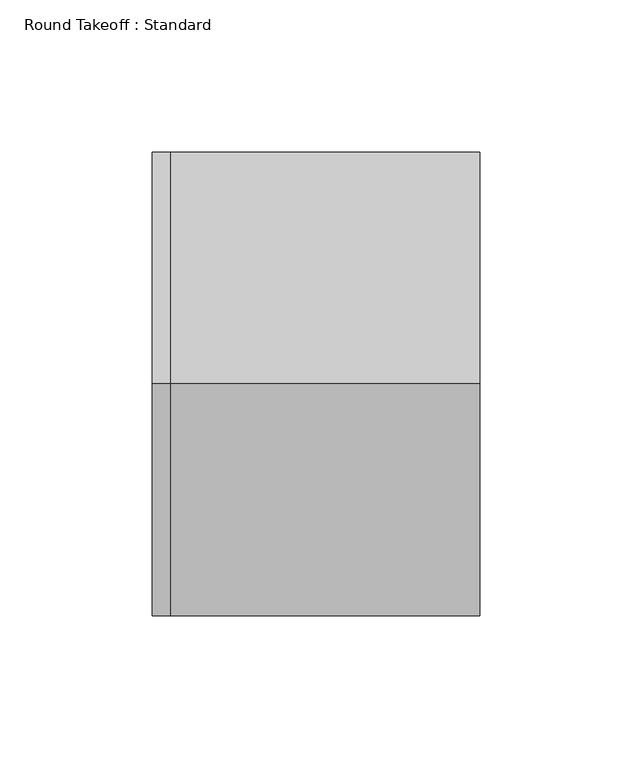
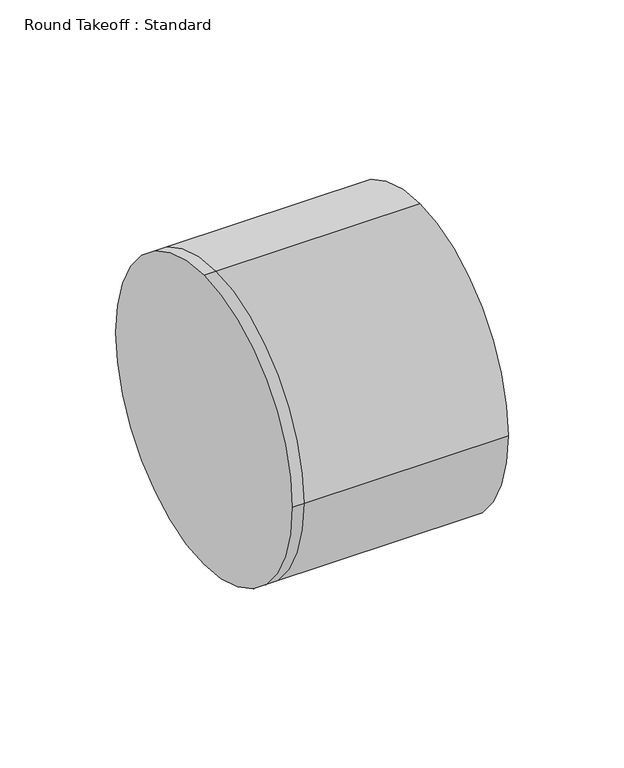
"""IFC4 building model written with IfcOpenShell, lengths in millimetres: duct fitting geometry, Round Takeoff : Standard."""

from ifc_helpers import new_model, si_unit, frame, origin, place, context, project, spatial, circle_curve, source, transform, mapped, element, save
from ifc_brep_helpers import plane_surface, cylinder_surface, advanced_brep


def round_takeoff_standard_bb6ed057(model_context):
    return source(origin(), model_context, "Body", "AdvancedBrep", [
        advanced_brep(
        [(101.6, 0.0, 76.2), (101.6, -76.2, 0.0), (101.6, 0.0, -76.2), (101.6, 76.2, 0.0), (0.0, 0.0, 76.2), (0.0, -76.2, 0.0), (0.0, 0.0, -76.2), (0.0, 76.2, 0.0), (-6.096, 0.0, 76.2), (-6.096, 76.2, 0.0), (-6.096, 0.0, -76.2), (-6.096, -76.2, 0.0)],
        [
            (0, 1, circle_curve(frame((101.6, 0.0, 0.0), z_axis=(1.0, 0.0, 0.0), x_axis=(0.0, -1.0, 0.0)), 76.2)),
            (1, 2, circle_curve(frame((101.6, 0.0, 0.0), z_axis=(1.0, 0.0, 0.0), x_axis=(0.0, -1.0, 0.0)), 76.2)),
            (2, 3, circle_curve(frame((101.6, 0.0, 0.0), z_axis=(1.0, 0.0, 0.0), x_axis=(0.0, -1.0, 0.0)), 76.2)),
            (3, 0, circle_curve(frame((101.6, 0.0, 0.0), z_axis=(1.0, 0.0, 0.0), x_axis=(0.0, -1.0, 0.0)), 76.2)),
            (0, 4),
            (4, 5, circle_curve(frame((0.0, 0.0, 0.0), z_axis=(1.0, 0.0, 0.0), x_axis=(0.0, -1.0, 0.0)), 76.2)),
            (5, 1),
            (5, 6, circle_curve(frame((0.0, 0.0, 0.0), z_axis=(1.0, 0.0, 0.0), x_axis=(0.0, -1.0, 0.0)), 76.2)),
            (6, 2),
            (6, 7, circle_curve(frame((0.0, 0.0, 0.0), z_axis=(1.0, 0.0, 0.0), x_axis=(0.0, -1.0, 0.0)), 76.2)),
            (7, 3),
            (7, 4, circle_curve(frame((0.0, 0.0, 0.0), z_axis=(1.0, 0.0, 0.0), x_axis=(0.0, -1.0, 0.0)), 76.2)),
            (8, 9, circle_curve(frame((-6.096, 0.0, 0.0), z_axis=(-1.0, 0.0, 0.0), x_axis=(0.0, -1.0, 0.0)), 76.2)),
            (9, 10, circle_curve(frame((-6.096, 0.0, 0.0), z_axis=(-1.0, 0.0, 0.0), x_axis=(0.0, -1.0, 0.0)), 76.2)),
            (10, 11, circle_curve(frame((-6.096, 0.0, 0.0), z_axis=(-1.0, 0.0, 0.0), x_axis=(0.0, -1.0, 0.0)), 76.2)),
            (11, 8, circle_curve(frame((-6.096, 0.0, 0.0), z_axis=(-1.0, 0.0, 0.0), x_axis=(0.0, -1.0, 0.0)), 76.2)),
            (11, 5),
            (4, 8),
            (10, 6),
            (9, 7),
        ],
        [
            plane_surface(frame((101.6, 0.0, 0.0), z_axis=(1.0, 0.0, 0.0), x_axis=(0.0, 0.0, 1.0))),
            cylinder_surface(frame((0.0, 0.0, 0.0), z_axis=(-1.0, 0.0, 0.0), x_axis=(0.0, -1.0, 0.0)), 76.2),
            plane_surface(frame((-6.096, 0.0, 0.0), z_axis=(-1.0, 0.0, 0.0), x_axis=(0.0, 0.0, 1.0))),
            cylinder_surface(frame((-6.096, 0.0, 0.0), z_axis=(-1.0, 0.0, 0.0), x_axis=(0.0, -1.0, 0.0)), 76.2),
        ],
        [
            (0, [[1, 2, 3, 4]]),
            (1, [[5, 6, 7, -1]]),
            (1, [[-7, 8, 9, -2]]),
            (1, [[-9, 10, 11, -3]]),
            (1, [[-11, 12, -5, -4]]),
            (2, [[13, 14, 15, 16]]),
            (3, [[17, -6, 18, -16]]),
            (3, [[19, -8, -17, -15]]),
            (3, [[20, -10, -19, -14]]),
            (3, [[-18, -12, -20, -13]]),
        ],
    ),
    ])


if __name__ == "__main__":
    model = new_model("IFC4")
    model_context = context("Model", 3, world=origin())
    ifc_project = project(units=[si_unit("LENGTHUNIT", "METRE", prefix="MILLI")], contexts=[model_context])
    site = spatial("IfcSite", under=ifc_project)
    building = spatial("IfcBuilding", under=site)
    placement = place(None, origin())
    round_takeoff_standard_shape = round_takeoff_standard_bb6ed057(model_context)
    element("IfcDuctFitting", 1, ObjectType="Round Takeoff : Standard", at=placement, inside=building, context=model_context, shape_type="MappedRepresentation", body=[
        mapped(round_takeoff_standard_shape, transform((0.0, 0.0, 0.0), x_axis=(1.0, 0.0, 0.0), y_axis=(0.0, 1.0, 0.0), z_axis=(0.0, 0.0, 1.0))),
    ])
    save(model, "model.ifc")
